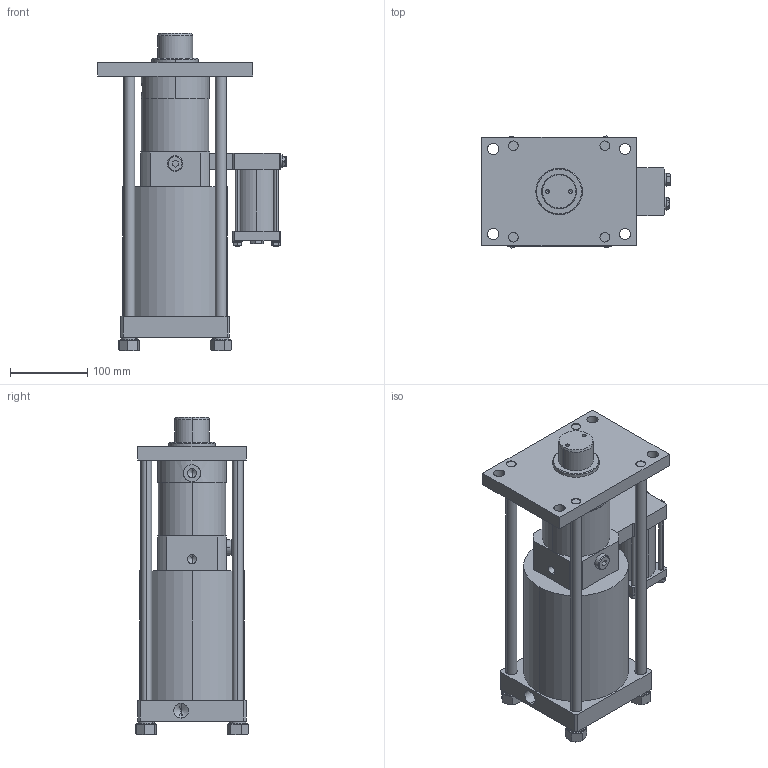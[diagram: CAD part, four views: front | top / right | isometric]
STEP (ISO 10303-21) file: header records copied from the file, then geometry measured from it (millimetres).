
FILE_DESCRIPTION (( 'STEP AP203' ), '1' );
FILE_NAME ('PCS5 12545 VC09.STEP', '2016-02-19T10:28:21', ( 'Admin' ), ( '' ), 'SwSTEP 2.0', 'SolidWorks 2015', '' );
FILE_SCHEMA (( 'CONFIG_CONTROL_DESIGN' ));
Length unit declared in the file: millimetre
Products named in the file (8): hexagon fit bolt_is_IS 3640 - M8 x 25 x 14.5-N; spring lock washer 3063_is_IS 3063- 6-A; hexagon nut style 1_is_IS 1364-3 - M6-W-N; spring lock washer 6735_is_IS 6735- 14; hex nut heavy_am_B18.2.4.6M - Heavy hex nut,  M14 x 2 --W-N; PCS5 12545 VC09; PCS5 12545_1; plain washer (type a)_is_IS 2016 A- 9
Assembly tree (21 placements, depth 2):
  PCS5 12545 VC09
    PCS5 12545_1
    plain washer (type a)_is_IS 2016 A- 9  x2
    hexagon fit bolt_is_IS 3640 - M8 x 25 x 14.5-N  x2
    spring lock washer 3063_is_IS 3063- 6-A  x4
    hexagon nut style 1_is_IS 1364-3 - M6-W-N  x4
    spring lock washer 6735_is_IS 6735- 14  x4
    hex nut heavy_am_B18.2.4.6M - Heavy hex nut,  M14 x 2 --W-N  x4
Bounding box: 243.6 x 145.34 x 409.3 mm (x, y, z)
Volume: 5121243.5 mm3; surface area: 381853.9 mm2
Topology: 22 solids, 22 shells, 643 faces, 1538 edges, 965 vertices
Faces by surface type: plane 269, cylinder 200, cone 138, bspline 36
Entity records: 11463 total; most frequent: CARTESIAN_POINT 2283, DIRECTION 1747, ORIENTED_EDGE 1590, EDGE_CURVE 795, AXIS2_PLACEMENT_3D 682, VERTEX_POINT 514, EDGE_LOOP 403, LINE 383
